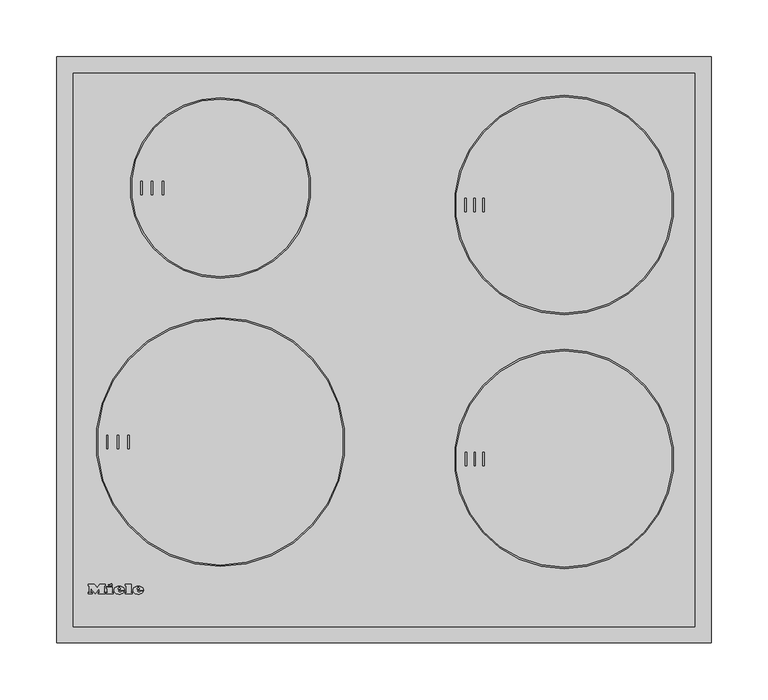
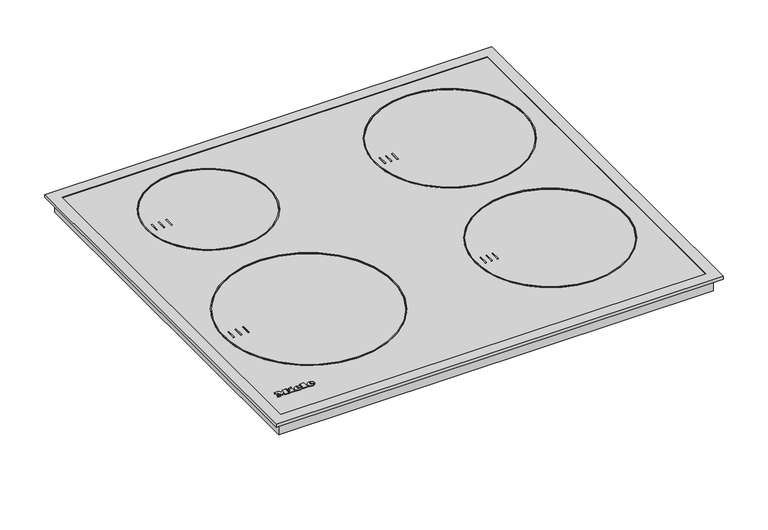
"""IFC4 building model written with IfcOpenShell, lengths in millimetres: proxy geometry, 11127270_D_KM7001FR : 26700110_D_11127270_KM7001FR."""

import ifcopenshell
import ifcopenshell.guid

model = None  # the IFC model being written
_history = None  # IfcOwnerHistory: only IFC2X3 demands one
_inside = {}  # id of a spatial element -> (the spatial element, [elements in it])
_under = {}  # id of a project, library or spatial element -> (it, [spatial elements below it])
_declared = {}  # id of a project -> (the project, [libraries it declares])
_typed = {}  # id of a type object -> (the type object, [elements of that type])
_made_of = {}  # id of a material, layer set ... -> (it, [elements and type objects made of it])


def new_model(schema):
    """Start an empty IFC model of exactly this schema.

    Asked for "IFC4X3", IfcOpenShell would pick the latest addendum, in which some entities
    have other attributes; the version numbers below select the first issue.
    IFC2X3 requires an IfcOwnerHistory on every rooted entity: one is made here for all.
    """
    global model, _history
    if schema == "IFC4X3":
        model = ifcopenshell.file(schema_version=(4, 3, 0, 0))
    else:
        model = ifcopenshell.file(schema=schema)
    _inside.clear()
    _under.clear()
    _declared.clear()
    _typed.clear()
    _made_of.clear()
    _history = None
    if model.schema == "IFC2X3":
        org = make("IfcOrganization", Name="unknown")
        user = make(
            "IfcPersonAndOrganization",
            ThePerson=make("IfcPerson", FamilyName="unknown"),
            TheOrganization=org,
        )
        app = make(
            "IfcApplication",
            ApplicationDeveloper=org,
            Version="unknown",
            ApplicationFullName="unknown",
            ApplicationIdentifier="unknown",
        )
        _history = make(
            "IfcOwnerHistory",
            OwningUser=user,
            OwningApplication=app,
            ChangeAction="ADDED",
            CreationDate=0,
        )
    return model


def make(cls, **values):
    """One entity of the class cls with the attributes given. An attribute that is None is left unset."""
    return model.create_entity(
        cls, **{name: value for name, value in values.items() if value is not None}
    )


def rooted(cls, **values):
    """An entity with a GlobalId (a new one), such as an element, a storey or a relation."""
    return make(cls, GlobalId=ifcopenshell.guid.new(), OwnerHistory=_history, **values)


def si_unit(unit_type, name, prefix=None):
    """IfcSIUnit, for example si_unit("LENGTHUNIT", "METRE", prefix="MILLI")."""
    return make("IfcSIUnit", UnitType=unit_type, Prefix=prefix, Name=name)


def assignment(units):
    """IfcUnitAssignment: the units of a project."""
    return None if units is None else make("IfcUnitAssignment", Units=units)


def point(xyz):
    """IfcCartesianPoint."""
    return None if xyz is None else make("IfcCartesianPoint", Coordinates=xyz)


def direction(xyz):
    """IfcDirection."""
    return None if xyz is None else make("IfcDirection", DirectionRatios=xyz)


def frame(location, z_axis=None, x_axis=None):
    """IfcAxis2Placement3D, a coordinate frame: its origin and axes. An axis left out is left unset."""
    return make(
        "IfcAxis2Placement3D",
        Location=point(location),
        Axis=direction(z_axis),
        RefDirection=direction(x_axis),
    )


def frame_2d(location, x_axis=None):
    """IfcAxis2Placement2D, a coordinate frame in the plane: its origin and x axis."""
    return make(
        "IfcAxis2Placement2D", Location=point(location), RefDirection=direction(x_axis)
    )


def origin():
    """The frame at (0, 0, 0) with its axes left unset."""
    return frame((0.0, 0.0, 0.0))


def origin_with_axes():
    """The frame at (0, 0, 0) with the z axis (0, 0, 1) and the x axis (1, 0, 0) written out."""
    return frame((0.0, 0.0, 0.0), z_axis=(0.0, 0.0, 1.0), x_axis=(1.0, 0.0, 0.0))


def place(relative_to, where):
    """IfcLocalPlacement: puts the frame where relative to a parent placement (None: the world)."""
    return make(
        "IfcLocalPlacement", PlacementRelTo=relative_to, RelativePlacement=where
    )


def context(
    kind, dimensions, precision=None, world=None, true_north=None, identifier=None
):
    """IfcGeometricRepresentationContext, for example the 3D "Model" context."""
    return make(
        "IfcGeometricRepresentationContext",
        ContextIdentifier=identifier,
        ContextType=kind,
        CoordinateSpaceDimension=dimensions,
        Precision=precision,
        WorldCoordinateSystem=world,
        TrueNorth=true_north,
    )


def project(units=None, contexts=None):
    """IfcProject with its units and contexts."""
    return rooted(
        "IfcProject",
        Name="project",
        RepresentationContexts=contexts,
        UnitsInContext=assignment(units),
    )


def spatial(cls, under=None, at=None, **own):
    """A site, building, storey or space (cls), placed at a placement, below another one or the project."""
    s = rooted(cls, ObjectPlacement=at, **own)
    if under is not None:
        _under.setdefault(under.id(), (under, []))[1].append(s)
    return s


def polyline(points):
    """IfcPolyline through the points."""
    return make("IfcPolyline", Points=[point(p) for p in points])


def circle_curve(where, radius):
    """IfcCircle in the frame where."""
    return make("IfcCircle", Position=where, Radius=radius)


def ellipse_curve(where, semi_axis1, semi_axis2):
    """IfcEllipse in the frame where."""
    return make(
        "IfcEllipse", Position=where, SemiAxis1=semi_axis1, SemiAxis2=semi_axis2
    )


def trimmed(basis, trim1, trim2, sense, master):
    """IfcTrimmedCurve: the piece of a basis curve between two trims."""
    return make(
        "IfcTrimmedCurve",
        BasisCurve=basis,
        Trim1=trim1,
        Trim2=trim2,
        SenseAgreement=sense,
        MasterRepresentation=master,
    )


def segment(curve, same_sense, transition):
    """IfcCompositeCurveSegment."""
    return make(
        "IfcCompositeCurveSegment",
        Transition=transition,
        SameSense=same_sense,
        ParentCurve=curve,
    )


def composite_curve(segments, self_intersect=None):
    """IfcCompositeCurve: segments joined end to end."""
    return make("IfcCompositeCurve", Segments=segments, SelfIntersect=self_intersect)


def outline(outer, holes=None, kind="AREA"):
    """IfcArbitraryClosedProfileDef: a profile drawn as a closed curve; with holes, ...WithVoids."""
    if holes is None:
        return make("IfcArbitraryClosedProfileDef", ProfileType=kind, OuterCurve=outer)
    return make(
        "IfcArbitraryProfileDefWithVoids",
        ProfileType=kind,
        OuterCurve=outer,
        InnerCurves=holes,
    )


def extrude(swept, where, along, depth):
    """IfcExtrudedAreaSolid: the profile swept, set in the frame where, extruded along a direction by depth."""
    return make(
        "IfcExtrudedAreaSolid",
        SweptArea=swept,
        Position=where,
        ExtrudedDirection=direction(along),
        Depth=depth,
    )


def faces_of(points, faces, orient=None, outer=None):
    """IfcFace entities. A face is a list of loops; a loop is a list of indices into points, from 0.

    orient and outer hold one flag for each loop. By default every Orientation is true, the
    first loop of a face is its IfcFaceOuterBound and the others are IfcFaceBound.
    """
    made = []
    for i, loops in enumerate(faces):
        bounds = []
        for j, loop in enumerate(loops):
            is_outer = j == 0 if outer is None else outer[i][j]
            bounds.append(
                make(
                    "IfcFaceOuterBound" if is_outer else "IfcFaceBound",
                    Bound=make("IfcPolyLoop", Polygon=[points[k] for k in loop]),
                    Orientation=True if orient is None else orient[i][j],
                )
            )
        made.append(make("IfcFace", Bounds=bounds))
    return made


def faceted_brep(points, faces, orient=None, outer=None, voids=None):
    """IfcFacetedBrep: a solid bounded by flat faces; with voids (closed shells), ...WithVoids."""
    shared = [point(p) for p in points]
    hull = make("IfcClosedShell", CfsFaces=faces_of(shared, faces, orient, outer))
    if voids is None:
        return make("IfcFacetedBrep", Outer=hull)
    return make(
        "IfcFacetedBrepWithVoids",
        Outer=hull,
        Voids=[
            make(cls, CfsFaces=faces_of(shared, fs, o, b)) for cls, fs, o, b in voids
        ],
    )


def shape(context_of_items, identifier, shape_type, items):
    """IfcShapeRepresentation: the items that make up one representation, for example the "Body"."""
    return make(
        "IfcShapeRepresentation",
        ContextOfItems=context_of_items,
        RepresentationIdentifier=identifier,
        RepresentationType=shape_type,
        Items=items,
    )


def source(mapping_origin, context_of_items, identifier, shape_type, items):
    """IfcRepresentationMap: a shape defined once, which mapped items show again and again."""
    return make(
        "IfcRepresentationMap",
        MappingOrigin=mapping_origin,
        MappedRepresentation=shape(context_of_items, identifier, shape_type, items),
    )


def transform(
    local_origin,
    x_axis=None,
    y_axis=None,
    z_axis=None,
    scale=None,
    scale2=None,
    scale3=None,
    uniform=True,
):
    """IfcCartesianTransformationOperator3D, or its non-uniform kind. x_axis, y_axis, z_axis: its Axis1, 2, 3."""
    if uniform:
        return make(
            "IfcCartesianTransformationOperator3D",
            Axis1=direction(x_axis),
            Axis2=direction(y_axis),
            LocalOrigin=point(local_origin),
            Scale=scale,
            Axis3=direction(z_axis),
        )
    return make(
        "IfcCartesianTransformationOperator3DnonUniform",
        Axis1=direction(x_axis),
        Axis2=direction(y_axis),
        LocalOrigin=point(local_origin),
        Scale=scale,
        Axis3=direction(z_axis),
        Scale2=scale2,
        Scale3=scale3,
    )


def mapped(mapping_source, mapping_target):
    """IfcMappedItem: shows the shape of a source again, moved by a transform."""
    return make(
        "IfcMappedItem", MappingSource=mapping_source, MappingTarget=mapping_target
    )


def made_of(thing, what):
    """Note that an element or type object is made of a material, layer set ...; save() writes the relation."""
    if what is not None:
        _made_of.setdefault(what.id(), (what, []))[1].append(thing)
    return thing


def element(
    cls,
    number,
    at=None,
    inside=None,
    cuts=None,
    type_object=None,
    material=None,
    context=None,
    identifier="Body",
    shape_type=None,
    held_by="IfcProductDefinitionShape",
    body=None,
    shapes=None,
    **own,
):
    """One element of the class cls, such as IfcWall. Its Tag is "e" and its number.

    at: its placement. inside: the storey or other place that contains it. cuts: it is an
    opening in that element (IfcRelVoidsElement). A single representation is given by context,
    identifier, shape_type and body (its items); several are given by shapes. held_by: the class
    of the entity that holds the representations. save() writes the other relations.
    """
    e = rooted(cls, Tag="e%d" % number, ObjectPlacement=at, **own)
    if body is not None:
        shapes = [shape(context, identifier, shape_type, body)]
    if shapes is not None:
        e.Representation = make(held_by, Representations=shapes)
    if inside is not None:
        _inside.setdefault(inside.id(), (inside, []))[1].append(e)
    if cuts is not None:
        rooted(
            "IfcRelVoidsElement", RelatingBuildingElement=cuts, RelatedOpeningElement=e
        )
    if type_object is not None:
        _typed.setdefault(type_object.id(), (type_object, []))[1].append(e)
    return made_of(e, material)


def aggregate(whole, parts):
    """IfcRelAggregates: a whole, such as a stair, and the parts it consists of."""
    return rooted("IfcRelAggregates", RelatingObject=whole, RelatedObjects=parts)


def save(model, path):
    """Write the relations noted so far, then the file.

    IfcRelAggregates (storeys below a building ...), IfcRelContainedInSpatialStructure (elements
    in a storey), IfcRelDefinesByType, IfcRelAssociatesMaterial and IfcRelDeclares: one each for
    every whole, place, type object, material and project.
    """
    for whole, parts in _under.values():
        aggregate(whole, parts)
    for where, things in _inside.values():
        rooted(
            "IfcRelContainedInSpatialStructure",
            RelatedElements=things,
            RelatingStructure=where,
        )
    for kind, things in _typed.values():
        rooted("IfcRelDefinesByType", RelatedObjects=things, RelatingType=kind)
    for what, things in _made_of.values():
        rooted("IfcRelAssociatesMaterial", RelatedObjects=things, RelatingMaterial=what)
    for by, libraries in _declared.values():
        rooted("IfcRelDeclares", RelatingContext=by, RelatedDefinitions=libraries)
    model.write(path)


def plane_surface(at):
    """IfcPlane: the flat surface through the origin of the frame at, square to its z axis."""
    return make("IfcPlane", Position=at)


def cylinder_surface(at, radius):
    """IfcCylindricalSurface: all points at the distance radius from the z axis of the frame at."""
    return make("IfcCylindricalSurface", Position=at, Radius=radius)


def revolved_surface(curve, axis_point, axis_direction):
    """IfcSurfaceOfRevolution: the curve turned about the line through axis_point along axis_direction."""
    return make(
        "IfcSurfaceOfRevolution",
        SweptCurve=make("IfcArbitraryOpenProfileDef", ProfileType="CURVE", Curve=curve),
        AxisPosition=make("IfcAxis1Placement", Location=point(axis_point), Axis=direction(axis_direction)),
    )


def extruded_surface(curve, direction_of_extrusion, depth):
    """IfcSurfaceOfLinearExtrusion: the curve pushed along a direction by depth."""
    return make(
        "IfcSurfaceOfLinearExtrusion",
        SweptCurve=make("IfcArbitraryOpenProfileDef", ProfileType="CURVE", Curve=curve),
        ExtrudedDirection=direction(direction_of_extrusion),
        Depth=depth,
    )


def advanced_brep(points, edges, surfaces, faces):
    """IfcAdvancedBrep: a solid bounded by faces that lie on surfaces and meet in shared edges.

    An edge is (start, end): straight between two places in points (the first is 0);
    or (start, end, curve); or (start, end, curve, False) where it runs against its curve.
    A face is (place in surfaces, loops), or (place, loops, False) where it looks against
    its surface's normal. A loop lists edges by number (the first is 1), with a minus sign
    where the edge is run from its end to its start. The first loop is the outer one.
    """
    corners = [point(p) for p in points]
    vertices = [make("IfcVertexPoint", VertexGeometry=c) for c in corners]
    made = []
    for start, end, *more in edges:
        made.append(
            make(
                "IfcEdgeCurve",
                EdgeStart=vertices[start],
                EdgeEnd=vertices[end],
                EdgeGeometry=more[0] if more else make("IfcPolyline", Points=[corners[start], corners[end]]),
                SameSense=more[1] if len(more) > 1 else True,
            )
        )
    hull = []
    for where, loops, *sense in faces:
        bounds = []
        for j, loop in enumerate(loops):
            ring = [make("IfcOrientedEdge", EdgeElement=made[abs(k) - 1], Orientation=k > 0) for k in loop]
            bounds.append(
                make(
                    "IfcFaceOuterBound" if j == 0 else "IfcFaceBound",
                    Bound=make("IfcEdgeLoop", EdgeList=ring),
                    Orientation=True,
                )
            )
        hull.append(make("IfcAdvancedFace", Bounds=bounds, FaceSurface=surfaces[where], SameSense=sense[0] if sense else True))
    return make("IfcAdvancedBrep", Outer=make("IfcClosedShell", CfsFaces=hull))


def specialty_equipment_da646efd(model_context):
    return source(origin(), model_context, "Body", "SolidModel", [
        extrude(outline(polyline([(279.0, 506.0), (279.0, 8.0), (-279.0, 8.0), (-279.0, 506.0), (279.0, 506.0)])), frame((0.0, 0.0, -18.0), z_axis=(0.0, 0.0, 1.0), x_axis=(1.0, 0.0, 0.0)), (0.0, 0.0, 1.0), 18.0),
        extrude(outline(polyline([(-192.8, 320.7), (-214.2, 320.7), (-214.2, 404.1), (-192.8, 404.1), (-192.8, 454.3), (213.2, 454.3), (213.2, 83.3), (-192.8, 83.3), (-192.8, 320.7)])), frame((0.0, 0.0, -47.7), z_axis=(0.0, 0.0, 1.0), x_axis=(1.0, 0.0, 0.0)), (0.0, 0.0, 1.0), 29.7),
        extrude(outline(polyline([(284.0, 508.0), (284.0, 1.0), (-284.0, 1.0), (-284.0, 508.0), (284.0, 508.0)])), origin_with_axes(), (0.0, 0.0, 1.0), 2.6),
        faceted_brep([(272.9, 499.9, 3.6), (272.9, 499.9, 2.6), (272.9, 14.1, 2.6), (272.9, 14.1, 3.6), (287.0, 514.0, 0.0), (287.0, 514.0, 3.6), (287.0, 0.0, 3.6), (287.0, 0.0, 0.0), (286.0, 513.0, 2.6), (286.0, 513.0, 0.0), (286.0, 1.0, 0.0), (286.0, 1.0, 2.6), (-272.9, 14.1, 2.6), (-272.9, 14.1, 3.6), (-287.0, 0.0, 3.6), (-287.0, 0.0, 0.0), (-286.0, 1.0, 0.0), (-286.0, 1.0, 2.6), (-272.9, 499.9, 2.6), (-272.9, 499.9, 3.6), (-287.0, 514.0, 3.6), (-287.0, 514.0, 0.0), (-286.0, 513.0, 0.0), (-286.0, 513.0, 2.6)], [[[0, 1, 2, 3]], [[4, 5, 6, 7]], [[8, 9, 10, 11]], [[3, 2, 12, 13]], [[7, 6, 14, 15]], [[11, 10, 16, 17]], [[13, 12, 18, 19]], [[15, 14, 20, 21]], [[17, 16, 22, 23]], [[19, 18, 1, 0]], [[5, 20, 14, 6], [3, 13, 19, 0]], [[21, 20, 5, 4]], [[7, 15, 21, 4], [9, 22, 16, 10]], [[23, 22, 9, 8]], [[11, 17, 23, 8], [1, 18, 12, 2]]]),
        extrude(outline(polyline([(151.2772603, 417.5), (143.9, 417.5), (143.9, 418.7557039), (150.0215564, 418.7557039), (150.0215564, 422.0519266), (144.370889, 422.0519266), (144.370889, 423.3076304), (150.0215564, 423.3076304), (150.0215564, 426.2899271), (144.056963, 426.2899271), (144.056963, 427.545631), (151.2772603, 427.545631), (151.2772603, 417.5)])), frame((0.0, 0.0, -78.7), z_axis=(0.0, 0.0, 1.0), x_axis=(1.0, 0.0, 0.0)), (0.0, 0.0, 1.0), 1.0),
        extrude(outline(polyline([(142.0164442, 417.5), (135.7379248, 417.5), (135.7379248, 418.7557039), (140.7607403, 418.7557039), (140.7607403, 427.545631), (142.0164442, 427.545631), (142.0164442, 417.5)])), frame((0.0, 0.0, -78.7), z_axis=(0.0, 0.0, 1.0), x_axis=(1.0, 0.0, 0.0)), (0.0, 0.0, 1.0), 1.0),
        extrude(outline(composite_curve([segment(trimmed(circle_curve(frame_2d((143.9, 422.5)), 7.5), [point((143.9, 430.0))], [point((143.9, 415.0))], False, "CARTESIAN"), True, "CONTINUOUS"), segment(trimmed(circle_curve(frame_2d((143.9, 422.5)), 7.5), [point((143.9, 415.0))], [point((143.9, 430.0))], False, "CARTESIAN"), True, "CONTINUOUS")], self_intersect=False)), frame((0.0, 0.0, -77.7), z_axis=(0.0, 0.0, 1.0), x_axis=(1.0, 0.0, 0.0)), (0.0, 0.0, 1.0), 30.0),
        extrude(outline(composite_curve([segment(trimmed(circle_curve(frame_2d((158.0, 384.1)), 96.2), [point((158.0, 480.3))], [point((158.0, 287.9))], False, "CARTESIAN"), True, "CONTINUOUS"), segment(trimmed(circle_curve(frame_2d((158.0, 384.1)), 96.2), [point((158.0, 287.9))], [point((158.0, 480.3))], False, "CARTESIAN"), True, "CONTINUOUS")], self_intersect=False), holes=[composite_curve([segment(trimmed(circle_curve(frame_2d((158.0, 384.1)), 95.0), [point((158.0, 479.1))], [point((158.0, 289.1))], True, "CARTESIAN"), True, "CONTINUOUS"), segment(trimmed(circle_curve(frame_2d((158.0, 384.1)), 95.0), [point((158.0, 289.1))], [point((158.0, 479.1))], True, "CARTESIAN"), True, "CONTINUOUS")], self_intersect=False)]), frame((0.0, 0.0, 2.6), z_axis=(0.0, 0.0, 1.0), x_axis=(1.0, 0.0, 0.0)), (0.0, 0.0, 1.0), 1.0),
        extrude(outline(polyline([(86.8, 390.1), (88.0, 390.1), (88.0, 378.1), (86.8, 378.1), (86.8, 390.1)])), frame((0.0, 0.0, 2.6), z_axis=(0.0, 0.0, 1.0), x_axis=(1.0, 0.0, 0.0)), (0.0, 0.0, 1.0), 1.0),
        extrude(outline(polyline([(78.8, 378.1), (78.8, 390.1), (80.0, 390.1), (80.0, 378.1), (78.8, 378.1)])), frame((0.0, 0.0, 2.6), z_axis=(0.0, 0.0, 1.0), x_axis=(1.0, 0.0, 0.0)), (0.0, 0.0, 1.0), 1.0),
        extrude(outline(polyline([(70.8, 390.1), (72.0, 390.1), (72.0, 378.1), (70.8, 378.1), (70.8, 390.1)])), frame((0.0, 0.0, 2.6), z_axis=(0.0, 0.0, 1.0), x_axis=(1.0, 0.0, 0.0)), (0.0, 0.0, 1.0), 1.0),
        extrude(outline(composite_curve([segment(trimmed(circle_curve(frame_2d((-143.5, 399.1)), 79.2), [point((-143.5, 478.3))], [point((-143.5, 319.9))], False, "CARTESIAN"), True, "CONTINUOUS"), segment(trimmed(circle_curve(frame_2d((-143.5, 399.1)), 79.2), [point((-143.5, 319.9))], [point((-143.5, 478.3))], False, "CARTESIAN"), True, "CONTINUOUS")], self_intersect=False), holes=[composite_curve([segment(trimmed(circle_curve(frame_2d((-143.5, 399.1)), 78.0), [point((-143.5, 477.1))], [point((-143.5, 321.1))], True, "CARTESIAN"), True, "CONTINUOUS"), segment(trimmed(circle_curve(frame_2d((-143.5, 399.1)), 78.0), [point((-143.5, 321.1))], [point((-143.5, 477.1))], True, "CARTESIAN"), True, "CONTINUOUS")], self_intersect=False)]), frame((0.0, 0.0, 2.6), z_axis=(0.0, 0.0, 1.0), x_axis=(1.0, 0.0, 0.0)), (0.0, 0.0, 1.0), 1.0),
        extrude(outline(polyline([(-194.7, 405.1), (-193.5, 405.1), (-193.5, 393.1), (-194.7, 393.1), (-194.7, 405.1)])), frame((0.0, 0.0, 2.6), z_axis=(0.0, 0.0, 1.0), x_axis=(1.0, 0.0, 0.0)), (0.0, 0.0, 1.0), 1.0),
        extrude(outline(polyline([(-204.1, 405.1), (-202.9, 405.1), (-202.9, 393.1), (-204.1, 393.1), (-204.1, 405.1)])), frame((0.0, 0.0, 2.6), z_axis=(0.0, 0.0, 1.0), x_axis=(1.0, 0.0, 0.0)), (0.0, 0.0, 1.0), 1.0),
        extrude(outline(polyline([(-213.5, 405.1), (-212.3, 405.1), (-212.3, 393.1), (-213.5, 393.1), (-213.5, 405.1)])), frame((0.0, 0.0, 2.6), z_axis=(0.0, 0.0, 1.0), x_axis=(1.0, 0.0, 0.0)), (0.0, 0.0, 1.0), 1.0),
        extrude(outline(composite_curve([segment(trimmed(circle_curve(frame_2d((158.0, 161.1)), 96.2), [point((158.0, 257.3))], [point((158.0, 64.9))], False, "CARTESIAN"), True, "CONTINUOUS"), segment(trimmed(circle_curve(frame_2d((158.0, 161.1)), 96.2), [point((158.0, 64.9))], [point((158.0, 257.3))], False, "CARTESIAN"), True, "CONTINUOUS")], self_intersect=False), holes=[composite_curve([segment(trimmed(circle_curve(frame_2d((158.0, 161.1)), 95.0), [point((158.0, 256.1))], [point((158.0, 66.1))], True, "CARTESIAN"), True, "CONTINUOUS"), segment(trimmed(circle_curve(frame_2d((158.0, 161.1)), 95.0), [point((158.0, 66.1))], [point((158.0, 256.1))], True, "CARTESIAN"), True, "CONTINUOUS")], self_intersect=False)]), frame((0.0, 0.0, 2.6), z_axis=(0.0, 0.0, 1.0), x_axis=(1.0, 0.0, 0.0)), (0.0, 0.0, 1.0), 1.0),
        extrude(outline(polyline([(86.8, 167.1), (88.0, 167.1), (88.0, 155.1), (86.8, 155.1), (86.8, 167.1)])), frame((0.0, 0.0, 2.6), z_axis=(0.0, 0.0, 1.0), x_axis=(1.0, 0.0, 0.0)), (0.0, 0.0, 1.0), 1.0),
        extrude(outline(polyline([(79.1, 167.1), (80.3, 167.1), (80.3, 155.1), (79.1, 155.1), (79.1, 167.1)])), frame((0.0, 0.0, 2.6), z_axis=(0.0, 0.0, 1.0), x_axis=(1.0, 0.0, 0.0)), (0.0, 0.0, 1.0), 1.0),
        extrude(outline(polyline([(71.4, 167.1), (72.6, 167.1), (72.6, 155.1), (71.4, 155.1), (71.4, 167.1)])), frame((0.0, 0.0, 2.6), z_axis=(0.0, 0.0, 1.0), x_axis=(1.0, 0.0, 0.0)), (0.0, 0.0, 1.0), 1.0),
        extrude(outline(composite_curve([segment(trimmed(circle_curve(frame_2d((-143.5, 176.1)), 109.2), [point((-143.5, 285.3))], [point((-143.5, 66.9))], False, "CARTESIAN"), True, "CONTINUOUS"), segment(trimmed(circle_curve(frame_2d((-143.5, 176.1)), 109.2), [point((-143.5, 66.9))], [point((-143.5, 285.3))], False, "CARTESIAN"), True, "CONTINUOUS")], self_intersect=False), holes=[composite_curve([segment(trimmed(circle_curve(frame_2d((-143.5, 176.1)), 108.0), [point((-143.5, 284.1))], [point((-143.5, 68.1))], True, "CARTESIAN"), True, "CONTINUOUS"), segment(trimmed(circle_curve(frame_2d((-143.5, 176.1)), 108.0), [point((-143.5, 68.1))], [point((-143.5, 284.1))], True, "CARTESIAN"), True, "CONTINUOUS")], self_intersect=False)]), frame((0.0, 0.0, 2.6), z_axis=(0.0, 0.0, 1.0), x_axis=(1.0, 0.0, 0.0)), (0.0, 0.0, 1.0), 1.0),
        extrude(outline(polyline([(-243.5, 182.1), (-242.3, 182.1), (-242.3, 170.1), (-243.5, 170.1), (-243.5, 182.1)])), frame((0.0, 0.0, 2.6), z_axis=(0.0, 0.0, 1.0), x_axis=(1.0, 0.0, 0.0)), (0.0, 0.0, 1.0), 1.0),
        extrude(outline(polyline([(-234.1, 182.1), (-232.9, 182.1), (-232.9, 170.1), (-234.1, 170.1), (-234.1, 182.1)])), frame((0.0, 0.0, 2.6), z_axis=(0.0, 0.0, 1.0), x_axis=(1.0, 0.0, 0.0)), (0.0, 0.0, 1.0), 1.0),
        extrude(outline(polyline([(-224.7, 182.1), (-223.5, 182.1), (-223.5, 170.1), (-224.7, 170.1), (-224.7, 182.1)])), frame((0.0, 0.0, 2.6), z_axis=(0.0, 0.0, 1.0), x_axis=(1.0, 0.0, 0.0)), (0.0, 0.0, 1.0), 1.0),
        advanced_brep(
        [(-216.34, 44.9948833, 6.0802537), (-216.34, 45.8028828, 6.0811551), (-210.988, 45.8028828, 6.0811551), (-220.3, 45.8028828, 6.0811551), (-218.1, 43.0988845, 6.0781386), (-211.124, 44.9948833, 6.0802537), (-213.54, 44.9948833, 6.0802537), (-215.444, 44.0988838, 6.0792542), (-216.34, 46.8268821, 6.0822974), (-216.34, 47.6988816, 6.0832701), (-214.972, 47.6988816, 6.0832701), (-214.972, 46.8268821, 6.0822974), (-216.34, 44.9959988, 5.0802543), (-215.444, 44.0999994, 5.0792548), (-213.54, 44.9959988, 5.0802543), (-211.124, 44.9959988, 5.0802543), (-218.1, 43.1, 5.0781393), (-220.3, 45.8039983, 5.0811557), (-210.988, 45.8039983, 5.0811557), (-216.34, 45.8039983, 5.0811557), (-216.34, 46.8279977, 5.082298), (-214.972, 46.8279977, 5.082298), (-214.972, 47.6999971, 5.0832707), (-216.34, 47.6999971, 5.0832707)],
        [
            (0, 1),
            (1, 2),
            (2, 3, ellipse_curve(frame((-215.644, 45.8028828, 6.0811551), z_axis=(0.0, -0.0011155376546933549, 0.9999993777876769), x_axis=(-1.0, 0.0, 0.0)), 4.656, 3.848)),
            (3, 4, circle_curve(frame((-217.2039564, 46.0748826, 6.0814585), z_axis=(0.0, -0.0011155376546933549, 0.9999993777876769), x_axis=(0.0, -0.9999993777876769, -0.0011155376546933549)), 3.1079688)),
            (4, 5, circle_curve(frame((-215.7372064, 48.1868813, 6.0838145), z_axis=(0.0, -0.0011155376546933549, 0.9999993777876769), x_axis=(0.0, -0.9999993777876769, -0.0011155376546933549)), 5.6098607)),
            (5, 6),
            (6, 7, circle_curve(frame((-215.0529412, 45.7388828, 6.0810837), z_axis=(0.0, 0.0011155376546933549, -0.9999993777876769), x_axis=(0.0, -0.9999993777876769, -0.0011155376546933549)), 1.6859795)),
            (7, 0, circle_curve(frame((-215.444, 44.9948833, 6.0802537), z_axis=(0.0, 0.0011155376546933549, -0.9999993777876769), x_axis=(0.0, -0.9999993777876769, -0.0011155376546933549)), 0.896)),
            (8, 9),
            (9, 10, circle_curve(frame((-215.656, 47.6988816, 6.0832701), z_axis=(0.0, 0.0011155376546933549, -0.9999993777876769), x_axis=(0.0, -0.9999993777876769, -0.0011155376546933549)), 0.684)),
            (10, 11),
            (11, 8),
            (12, 13, circle_curve(frame((-215.444, 44.9959988, 5.0802543), z_axis=(0.0, -0.0011155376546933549, 0.9999993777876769), x_axis=(0.0, -0.9999993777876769, -0.0011155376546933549)), 0.896)),
            (13, 14, circle_curve(frame((-215.0529412, 45.7399984, 5.0810843), z_axis=(0.0, -0.0011155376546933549, 0.9999993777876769), x_axis=(0.0, -0.9999993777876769, -0.0011155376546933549)), 1.6859795)),
            (14, 15),
            (15, 16, circle_curve(frame((-215.7372064, 48.1879968, 5.0838151), z_axis=(0.0, 0.0011155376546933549, -0.9999993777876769), x_axis=(0.0, -0.9999993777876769, -0.0011155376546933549)), 5.6098607)),
            (16, 17, circle_curve(frame((-217.2039564, 46.0759981, 5.0814591), z_axis=(0.0, 0.0011155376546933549, -0.9999993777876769), x_axis=(0.0, -0.9999993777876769, -0.0011155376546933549)), 3.1079688)),
            (17, 18, ellipse_curve(frame((-215.644, 45.8039983, 5.0811557), z_axis=(0.0, 0.0011155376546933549, -0.9999993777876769), x_axis=(-1.0, 0.0, 0.0)), 4.656, 3.848)),
            (18, 19),
            (19, 12),
            (20, 21),
            (21, 22),
            (22, 23, circle_curve(frame((-215.656, 47.6999971, 5.0832707), z_axis=(0.0, -0.0011155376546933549, 0.9999993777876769), x_axis=(0.0, -0.9999993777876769, -0.0011155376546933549)), 0.684)),
            (23, 20),
            (0, 12),
            (19, 1),
            (18, 2),
            (5, 15),
            (14, 6),
            (17, 3),
            (13, 7),
            (16, 4),
            (8, 20),
            (23, 9),
            (22, 10),
            (21, 11),
        ],
        [
            plane_surface(frame((-216.34, 45.8028828, 6.0811551), z_axis=(0.0, -0.0011155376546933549, 0.9999993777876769), x_axis=(0.0, 0.9999993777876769, 0.0011155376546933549))),
            plane_surface(frame((-216.34, 45.8039983, 5.0811557), z_axis=(0.0, 0.0011155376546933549, -0.9999993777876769), x_axis=(0.0, -0.9999993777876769, -0.0011155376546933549))),
            plane_surface(frame((-216.34, 44.9948833, 6.0802537), z_axis=(1.0000000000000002, 0.0, 0.0), x_axis=(0.0, 0.001115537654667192, -0.999999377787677))),
            plane_surface(frame((-216.34, 45.8028828, 6.0811551), z_axis=(0.0, -0.999999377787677, -0.001115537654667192), x_axis=(0.0, 0.001115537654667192, -0.999999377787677))),
            plane_surface(frame((-211.124, 44.9948833, 6.0802537), z_axis=(0.0, 0.999999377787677, 0.001115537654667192), x_axis=(0.0, 0.001115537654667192, -0.999999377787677))),
            extruded_surface(trimmed(ellipse_curve(frame((-215.644, 45.8051139, 4.0811563), z_axis=(0.0, -0.0011155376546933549, 0.9999993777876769), x_axis=(-1.0, 0.0, 0.0)), 4.656, 3.848), [point((-210.988, 45.8051139, 4.0811563))], [point((-220.3, 45.8051139, 4.0811563))], True, "CARTESIAN"), (0.0, -0.001115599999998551, 0.9999994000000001), 1.00000002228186),
            revolved_surface(polyline([(-215.0529412, 44.05401994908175, 5.079203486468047), (-215.0529412, 44.052904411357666, 6.079202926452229)]), (-215.0529412, 45.7399984, 5.0810843), (0.0, 0.0011155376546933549, -0.9999993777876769)),
            revolved_surface(polyline([(-215.444, 44.09999935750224, 5.079254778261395), (-215.444, 44.098883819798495, 6.079254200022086)]), (-215.444, 44.9959988, 5.0802543), (0.0, 0.0011155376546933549, -0.9999993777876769)),
            cylinder_surface(frame((-217.2039564, 46.0759981, 5.0814591), z_axis=(0.0, -0.0011155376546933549, 0.9999993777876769), x_axis=(0.0, -0.9999993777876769, -0.0011155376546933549)), 3.1079688),
            cylinder_surface(frame((-215.7372064, 48.1879968, 5.0838151), z_axis=(0.0, -0.0011155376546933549, 0.9999993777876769), x_axis=(0.0, -0.9999993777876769, -0.0011155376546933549)), 5.6098607),
            plane_surface(frame((-216.34, 46.8268821, 6.0822974), z_axis=(1.0000000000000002, 0.0, 0.0), x_axis=(0.0, 0.001115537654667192, -0.999999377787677))),
            revolved_surface(polyline([(-215.656, 47.01599752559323, 5.08250767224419), (-215.656, 47.0148819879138, 6.082507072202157)]), (-215.656, 47.6999971, 5.0832707), (0.0, 0.0011155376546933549, -0.9999993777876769)),
            plane_surface(frame((-214.972, 47.6988816, 6.0832701), z_axis=(-1.0000000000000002, 0.0, 0.0), x_axis=(0.0, 0.001115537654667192, -0.999999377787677))),
            plane_surface(frame((-214.972, 46.8268821, 6.0822974), z_axis=(0.0, 0.999999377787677, 0.001115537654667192), x_axis=(0.0, 0.001115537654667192, -0.999999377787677))),
        ],
        [
            (0, [[1, 2, 3, 4, 5, 6, 7, 8], [9, 10, 11, 12]]),
            (1, [[13, 14, 15, 16, 17, 18, 19, 20], [21, 22, 23, 24]]),
            (2, [[-1, 25, -20, 26]]),
            (3, [[-2, -26, -19, 27]]),
            (4, [[-6, 28, -15, 29]]),
            (5, [[-3, -27, -18, 30]]),
            (6, [[-7, -29, -14, 31]]),
            (7, [[-8, -31, -13, -25]]),
            (8, [[-4, -30, -17, 32]]),
            (9, [[-5, -32, -16, -28]]),
            (10, [[-9, 33, -24, 34]]),
            (11, [[-10, -34, -23, 35]]),
            (12, [[-11, -35, -22, 36]]),
            (13, [[-12, -36, -21, -33]]),
        ],
    ),
        advanced_brep(
        [(-233.036, 44.9948833, 6.0802537), (-233.036, 45.8028828, 6.0811551), (-227.684, 45.8028828, 6.0811551), (-236.996, 45.8028828, 6.0811551), (-234.796, 43.0988845, 6.0781386), (-227.82, 44.9948833, 6.0802537), (-230.236, 44.9948833, 6.0802537), (-232.14, 44.0988838, 6.0792542), (-233.036, 46.8268821, 6.0822974), (-233.036, 47.6988816, 6.0832701), (-231.668, 47.6988816, 6.0832701), (-231.668, 46.8268821, 6.0822974), (-233.036, 44.9959988, 5.0802543), (-232.14, 44.0999994, 5.0792548), (-230.236, 44.9959988, 5.0802543), (-227.82, 44.9959988, 5.0802543), (-234.796, 43.1, 5.0781393), (-236.996, 45.8039983, 5.0811557), (-227.684, 45.8039983, 5.0811557), (-233.036, 45.8039983, 5.0811557), (-233.036, 46.8279977, 5.082298), (-231.668, 46.8279977, 5.082298), (-231.668, 47.6999971, 5.0832707), (-233.036, 47.6999971, 5.0832707)],
        [
            (0, 1),
            (1, 2),
            (2, 3, ellipse_curve(frame((-232.34, 45.8028828, 6.0811551), z_axis=(0.0, -0.0011155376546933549, 0.9999993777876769), x_axis=(-1.0, 0.0, 0.0)), 4.656, 3.848)),
            (3, 4, circle_curve(frame((-233.8999564, 46.0748826, 6.0814585), z_axis=(0.0, -0.0011155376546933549, 0.9999993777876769), x_axis=(0.0, -0.9999993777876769, -0.0011155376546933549)), 3.1079688)),
            (4, 5, circle_curve(frame((-232.4332064, 48.1868813, 6.0838145), z_axis=(0.0, -0.0011155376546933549, 0.9999993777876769), x_axis=(0.0, -0.9999993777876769, -0.0011155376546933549)), 5.6098607)),
            (5, 6),
            (6, 7, circle_curve(frame((-231.7489412, 45.7388828, 6.0810837), z_axis=(0.0, 0.0011155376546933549, -0.9999993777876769), x_axis=(0.0, -0.9999993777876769, -0.0011155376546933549)), 1.6859795)),
            (7, 0, circle_curve(frame((-232.14, 44.9948833, 6.0802537), z_axis=(0.0, 0.0011155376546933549, -0.9999993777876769), x_axis=(0.0, -0.9999993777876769, -0.0011155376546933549)), 0.896)),
            (8, 9),
            (9, 10, circle_curve(frame((-232.352, 47.6988816, 6.0832701), z_axis=(0.0, 0.0011155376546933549, -0.9999993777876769), x_axis=(0.0, -0.9999993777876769, -0.0011155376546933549)), 0.684)),
            (10, 11),
            (11, 8),
            (12, 13, circle_curve(frame((-232.14, 44.9959988, 5.0802543), z_axis=(0.0, -0.0011155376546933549, 0.9999993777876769), x_axis=(0.0, -0.9999993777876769, -0.0011155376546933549)), 0.896)),
            (13, 14, circle_curve(frame((-231.7489412, 45.7399984, 5.0810843), z_axis=(0.0, -0.0011155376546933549, 0.9999993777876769), x_axis=(0.0, -0.9999993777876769, -0.0011155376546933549)), 1.6859795)),
            (14, 15),
            (15, 16, circle_curve(frame((-232.4332064, 48.1879968, 5.0838151), z_axis=(0.0, 0.0011155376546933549, -0.9999993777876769), x_axis=(0.0, -0.9999993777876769, -0.0011155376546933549)), 5.6098607)),
            (16, 17, circle_curve(frame((-233.8999564, 46.0759981, 5.0814591), z_axis=(0.0, 0.0011155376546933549, -0.9999993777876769), x_axis=(0.0, -0.9999993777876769, -0.0011155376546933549)), 3.1079688)),
            (17, 18, ellipse_curve(frame((-232.34, 45.8039983, 5.0811557), z_axis=(0.0, 0.0011155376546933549, -0.9999993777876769), x_axis=(-1.0, 0.0, 0.0)), 4.656, 3.848)),
            (18, 19),
            (19, 12),
            (20, 21),
            (21, 22),
            (22, 23, circle_curve(frame((-232.352, 47.6999971, 5.0832707), z_axis=(0.0, -0.0011155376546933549, 0.9999993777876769), x_axis=(0.0, -0.9999993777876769, -0.0011155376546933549)), 0.684)),
            (23, 20),
            (0, 12),
            (19, 1),
            (18, 2),
            (5, 15),
            (14, 6),
            (17, 3),
            (13, 7),
            (16, 4),
            (8, 20),
            (23, 9),
            (22, 10),
            (21, 11),
        ],
        [
            plane_surface(frame((-233.036, 45.8028828, 6.0811551), z_axis=(0.0, -0.0011155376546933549, 0.9999993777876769), x_axis=(0.0, 0.9999993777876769, 0.0011155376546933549))),
            plane_surface(frame((-233.036, 45.8039983, 5.0811557), z_axis=(0.0, 0.0011155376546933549, -0.9999993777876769), x_axis=(0.0, -0.9999993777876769, -0.0011155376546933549))),
            plane_surface(frame((-233.036, 44.9948833, 6.0802537), z_axis=(1.0000000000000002, 0.0, 0.0), x_axis=(0.0, 0.001115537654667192, -0.999999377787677))),
            plane_surface(frame((-233.036, 45.8028828, 6.0811551), z_axis=(0.0, -0.999999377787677, -0.001115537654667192), x_axis=(0.0, 0.001115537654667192, -0.999999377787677))),
            plane_surface(frame((-227.82, 44.9948833, 6.0802537), z_axis=(0.0, 0.999999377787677, 0.001115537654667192), x_axis=(0.0, 0.001115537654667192, -0.999999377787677))),
            extruded_surface(trimmed(ellipse_curve(frame((-232.34, 45.8051139, 4.0811563), z_axis=(0.0, -0.0011155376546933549, 0.9999993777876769), x_axis=(-1.0, 0.0, 0.0)), 4.656, 3.848), [point((-227.684, 45.8051139, 4.0811563))], [point((-236.996, 45.8051139, 4.0811563))], True, "CARTESIAN"), (0.0, -0.001115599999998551, 0.9999994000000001), 1.00000002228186),
            revolved_surface(polyline([(-231.7489412, 44.05401994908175, 5.079203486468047), (-231.7489412, 44.052904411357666, 6.079202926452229)]), (-231.7489412, 45.7399984, 5.0810843), (0.0, 0.0011155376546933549, -0.9999993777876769)),
            revolved_surface(polyline([(-232.14, 44.09999935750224, 5.079254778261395), (-232.14, 44.098883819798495, 6.079254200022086)]), (-232.14, 44.9959988, 5.0802543), (0.0, 0.0011155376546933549, -0.9999993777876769)),
            cylinder_surface(frame((-233.8999564, 46.0759981, 5.0814591), z_axis=(0.0, -0.0011155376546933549, 0.9999993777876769), x_axis=(0.0, -0.9999993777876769, -0.0011155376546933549)), 3.1079688),
            cylinder_surface(frame((-232.4332064, 48.1879968, 5.0838151), z_axis=(0.0, -0.0011155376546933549, 0.9999993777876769), x_axis=(0.0, -0.9999993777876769, -0.0011155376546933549)), 5.6098607),
            plane_surface(frame((-233.036, 46.8268821, 6.0822974), z_axis=(1.0000000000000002, 0.0, 0.0), x_axis=(0.0, 0.001115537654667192, -0.999999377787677))),
            revolved_surface(polyline([(-232.352, 47.01599752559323, 5.08250767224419), (-232.352, 47.0148819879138, 6.082507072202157)]), (-232.352, 47.6999971, 5.0832707), (0.0, 0.0011155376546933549, -0.9999993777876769)),
            plane_surface(frame((-231.668, 47.6988816, 6.0832701), z_axis=(-1.0000000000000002, 0.0, 0.0), x_axis=(0.0, 0.001115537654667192, -0.999999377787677))),
            plane_surface(frame((-231.668, 46.8268821, 6.0822974), z_axis=(0.0, 0.999999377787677, 0.001115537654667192), x_axis=(0.0, 0.001115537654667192, -0.999999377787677))),
        ],
        [
            (0, [[1, 2, 3, 4, 5, 6, 7, 8], [9, 10, 11, 12]]),
            (1, [[13, 14, 15, 16, 17, 18, 19, 20], [21, 22, 23, 24]]),
            (2, [[-1, 25, -20, 26]]),
            (3, [[-2, -26, -19, 27]]),
            (4, [[-6, 28, -15, 29]]),
            (5, [[-3, -27, -18, 30]]),
            (6, [[-7, -29, -14, 31]]),
            (7, [[-8, -31, -13, -25]]),
            (8, [[-4, -30, -17, 32]]),
            (9, [[-5, -32, -16, -28]]),
            (10, [[-9, 33, -24, 34]]),
            (11, [[-10, -34, -23, 35]]),
            (12, [[-11, -35, -22, 36]]),
            (13, [[-12, -36, -21, -33]]),
        ],
    ),
        extrude(outline(polyline([(0.0, 0.0), (-0.0109086, -2.9993294), (-1.4390415, -2.9920868), (-1.4315307, 0.0), (0.0, 0.0)])), frame((-241.78, 50.6279953, 5.086537), z_axis=(0.0, -0.001115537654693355, 0.9999993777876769), x_axis=(-0.4247202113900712, 0.9053240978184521, 0.0010099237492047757)), (0.0, 0.0, 1.0), 1.0),
        extrude(outline(polyline([(-0.4933908, 2.4141097), (-2.7800844, -2.4601583), (-7.0459741, -0.4588767), (-7.4401145, -1.299018), (-8.6568709, -0.728194), (-5.9760369, 4.9862153), (-4.7592805, 4.4153913), (-5.1636142, 3.5535222), (-2.1941493, 2.1604399), (-1.7898157, 3.022309), (-0.4933908, 2.4141097)])), frame((-241.78, 50.6279953, 5.086537), z_axis=(0.0, -0.001115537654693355, 0.9999993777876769), x_axis=(-0.4247202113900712, 0.9053240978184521, 0.0010099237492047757)), (0.0, 0.0, 1.0), 1.0),
        extrude(outline(polyline([(0.0, 0.0), (0.0, -1.304), (-5.504, -1.304), (-5.504, 5.3519999), (-6.488, 5.3519999), (-6.488, 6.696), (0.0, 6.696), (0.0, 5.3519999), (-0.96, 5.3519999), (-0.96, 0.0), (0.0, 0.0)])), frame((-227.236, 49.7959958, 5.0856089), z_axis=(0.0, -0.0011155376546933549, 0.9999993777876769), x_axis=(-1.0, 0.0, 0.0)), (0.0, 0.0, 1.0), 1.0),
        extrude(outline(polyline([(0.0, 0.0), (0.0, -1.304), (-5.576, -1.304), (-7.92, 1.696), (-10.256, -1.304), (-15.128, -1.304), (-15.128, 0.0), (-14.112, 0.0), (-14.112, 5.3519999), (-15.128, 5.3519999), (-15.128, 6.696), (-8.744, 6.696), (-8.744, 5.3519999), (-9.728, 5.3519999), (-9.728, 1.8807777), (-6.136, 6.696), (-2.56, 1.9488752), (-2.56, 5.3519999), (-3.52, 5.3519999), (-3.52, 6.696), (0.0, 6.696), (0.0, 5.3519999), (-0.968, 5.3519999), (-0.968, 0.0), (0.0, 0.0)])), frame((-259.7, 49.7959958, 5.0856089), z_axis=(0.0, -0.0011155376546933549, 0.9999993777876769), x_axis=(-1.0, 0.0, 0.0)), (0.0, 0.0, 1.0), 1.0),
    ])


if __name__ == "__main__":
    model = new_model("IFC4")
    model_context = context("Model", 3, world=origin())
    ifc_project = project(units=[si_unit("LENGTHUNIT", "METRE", prefix="MILLI")], contexts=[model_context])
    site = spatial("IfcSite", under=ifc_project)
    building = spatial("IfcBuilding", under=site)
    placement = place(None, origin())
    specialty_equipment_shape = specialty_equipment_da646efd(model_context)
    element("IfcBuildingElementProxy", 1, Name="11127270_D_KM7001FR : 26700110_D_11127270_KM7001FR", ObjectType="11127270_D_KM7001FR : 26700110_D_11127270_KM7001FR", at=placement, inside=building, context=model_context, shape_type="MappedRepresentation", body=[
        mapped(specialty_equipment_shape, transform((0.0, 0.0, 0.0), x_axis=(1.0, 0.0, 0.0), y_axis=(0.0, 1.0, 0.0), z_axis=(0.0, 0.0, 1.0))),
    ])
    save(model, "model.ifc")
